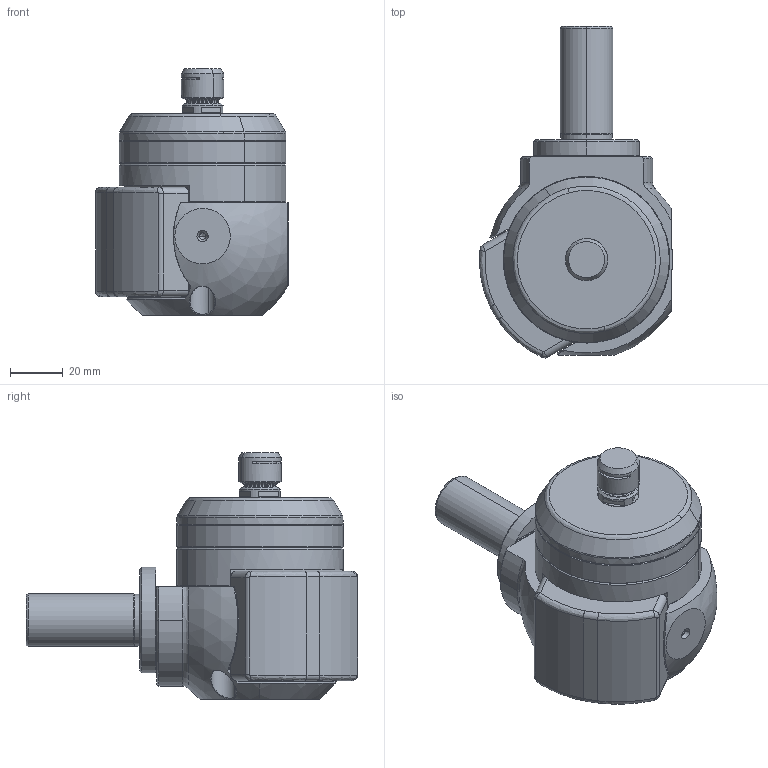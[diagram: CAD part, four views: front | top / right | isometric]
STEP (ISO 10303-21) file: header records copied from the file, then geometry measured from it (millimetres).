
FILE_DESCRIPTION (( 'STEP AP214' ), '1' );
FILE_NAME ('90 DEGREES-ST20-MODULAR.STEP', '2024-08-20T07:28:13', ( '' ), ( '' ), 'SwSTEP 2.0', 'SolidWorks 2024', '' );
FILE_SCHEMA (( 'AUTOMOTIVE_DESIGN' ));
Length unit declared in the file: millimetre
Products named in the file (1): 90 DEGREES-ST20-MODULAR
Bounding box: 72.98 x 125.59 x 93.4 mm (x, y, z)
Volume: 300058.6 mm3; surface area: 32354.4 mm2
Topology: 1 solids, 4 shells, 205 faces, 502 edges, 308 vertices
Faces by surface type: plane 63, cylinder 59, cone 47, bspline 26, torus 8, sphere 2
Entity records: 7692 total; most frequent: CARTESIAN_POINT 3003, DIRECTION 985, ORIENTED_EDGE 984, EDGE_CURVE 492, AXIS2_PLACEMENT_3D 405, VERTEX_POINT 307, CIRCLE 225, EDGE_LOOP 221
